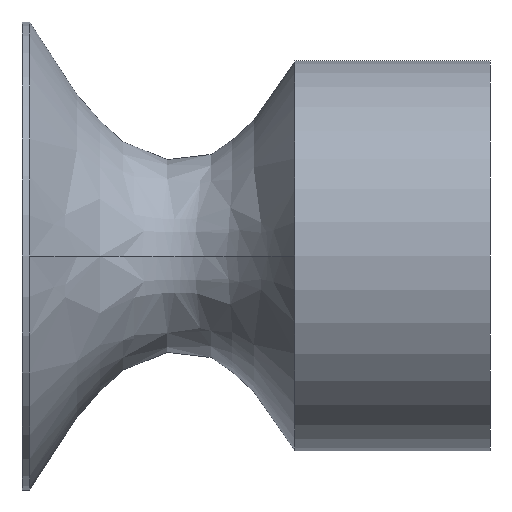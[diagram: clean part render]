
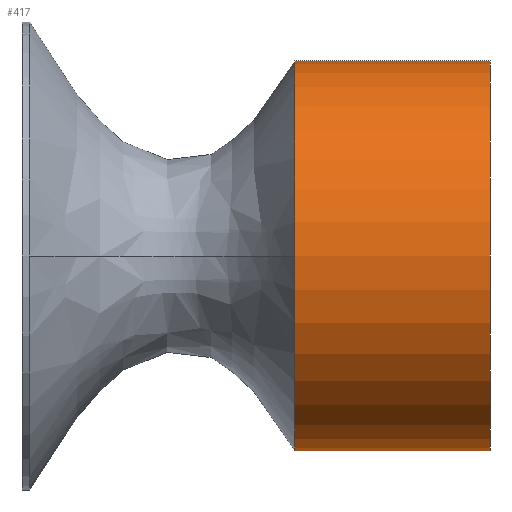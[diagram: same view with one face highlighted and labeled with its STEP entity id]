
A CAD part, front view. The second image highlights one B-rep face of the part: STEP entity #417.
In plain terms, the highlighted cylindrical face has radius 5 mm (diameter 10 mm), a partial arc.
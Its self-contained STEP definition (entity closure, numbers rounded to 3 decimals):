
#9 = CARTESIAN_POINT ( 'NONE',  ( 12., 0., 0. ) ) ;
#25 = EDGE_LOOP ( 'NONE', ( #228, #111, #125, #74, #68 ) ) ;
#33 = EDGE_CURVE ( 'NONE', #183, #429, #536, .T. ) ;
#37 = DIRECTION ( 'NONE',  ( 0., 0., 1. ) ) ;
#41 = VECTOR ( 'NONE', #266, 1000. ) ;
#43 = CARTESIAN_POINT ( 'NONE',  ( 12., 0., -5. ) ) ;
#61 = CARTESIAN_POINT ( 'NONE',  ( 12., 0., 5. ) ) ;
#68 = ORIENTED_EDGE ( 'NONE', *, *, #33, .T. ) ;
#74 = ORIENTED_EDGE ( 'NONE', *, *, #304, .F. ) ;
#91 = VERTEX_POINT ( 'NONE', #432 ) ;
#103 = EDGE_CURVE ( 'NONE', #500, #429, #344, .T. ) ;
#111 = ORIENTED_EDGE ( 'NONE', *, *, #400, .F. ) ;
#120 = CARTESIAN_POINT ( 'NONE',  ( 12., 0., -5. ) ) ;
#125 = ORIENTED_EDGE ( 'NONE', *, *, #528, .T. ) ;
#137 = DIRECTION ( 'NONE',  ( 1., 0., 0. ) ) ;
#171 = CARTESIAN_POINT ( 'NONE',  ( 7., 0., 0. ) ) ;
#181 = DIRECTION ( 'NONE',  ( 0., 0., -1. ) ) ;
#183 = VERTEX_POINT ( 'NONE', #287 ) ;
#186 = DIRECTION ( 'NONE',  ( -1., 0., 0. ) ) ;
#228 = ORIENTED_EDGE ( 'NONE', *, *, #103, .F. ) ;
#253 = CIRCLE ( 'NONE', #419, 5. ) ;
#262 = VERTEX_POINT ( 'NONE', #442 ) ;
#266 = DIRECTION ( 'NONE',  ( -1., 0., 0. ) ) ;
#275 = DIRECTION ( 'NONE',  ( 0., 0., 1. ) ) ;
#277 = DIRECTION ( 'NONE',  ( 0., 0., 1. ) ) ;
#287 = CARTESIAN_POINT ( 'NONE',  ( 7., -5., 0. ) ) ;
#304 = EDGE_CURVE ( 'NONE', #183, #91, #253, .T. ) ;
#320 = DIRECTION ( 'NONE',  ( 1., 0., 0. ) ) ;
#341 = DIRECTION ( 'NONE',  ( -1., 0., 0. ) ) ;
#344 = LINE ( 'NONE', #120, #492 ) ;
#393 = DIRECTION ( 'NONE',  ( -1., 0., 0. ) ) ;
#400 = EDGE_CURVE ( 'NONE', #262, #500, #508, .T. ) ;
#417 = ADVANCED_FACE ( 'NONE', ( #555 ), #464, .T. ) ;
#419 = AXIS2_PLACEMENT_3D ( 'NONE', #519, #393, #37 ) ;
#429 = VERTEX_POINT ( 'NONE', #471 ) ;
#432 = CARTESIAN_POINT ( 'NONE',  ( 7., 0., 5. ) ) ;
#442 = CARTESIAN_POINT ( 'NONE',  ( 12., 0., 5. ) ) ;
#446 = CARTESIAN_POINT ( 'NONE',  ( 12., 0., 0. ) ) ;
#464 = CYLINDRICAL_SURFACE ( 'NONE', #487, 5. ) ;
#471 = CARTESIAN_POINT ( 'NONE',  ( 7., 0., -5. ) ) ;
#484 = AXIS2_PLACEMENT_3D ( 'NONE', #171, #137, #181 ) ;
#487 = AXIS2_PLACEMENT_3D ( 'NONE', #9, #186, #277 ) ;
#492 = VECTOR ( 'NONE', #341, 1000. ) ;
#500 = VERTEX_POINT ( 'NONE', #43 ) ;
#508 = CIRCLE ( 'NONE', #574, 5. ) ;
#519 = CARTESIAN_POINT ( 'NONE',  ( 7., 0., 0. ) ) ;
#528 = EDGE_CURVE ( 'NONE', #262, #91, #561, .T. ) ;
#536 = CIRCLE ( 'NONE', #484, 5. ) ;
#555 = FACE_OUTER_BOUND ( 'NONE', #25, .T. ) ;
#561 = LINE ( 'NONE', #61, #41 ) ;
#574 = AXIS2_PLACEMENT_3D ( 'NONE', #446, #320, #275 ) ;
